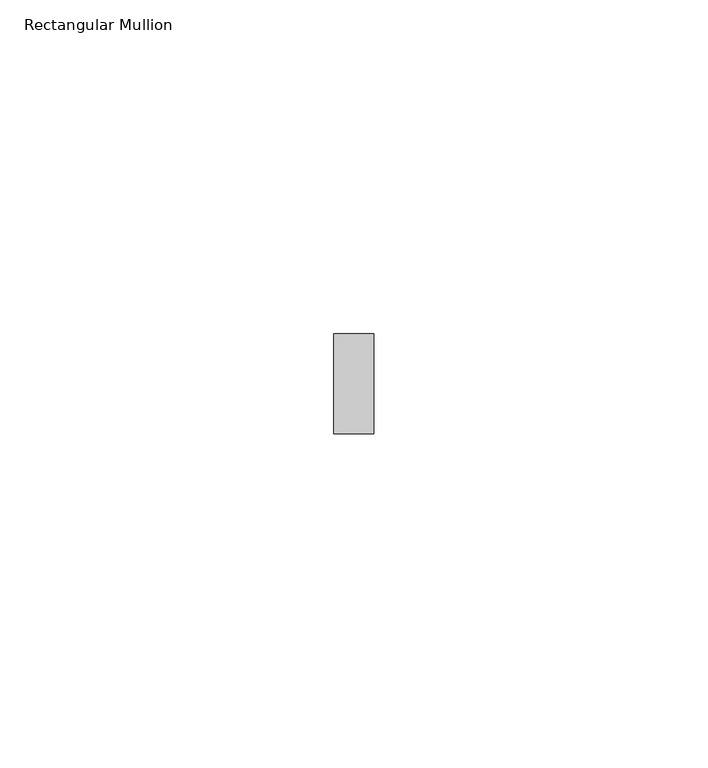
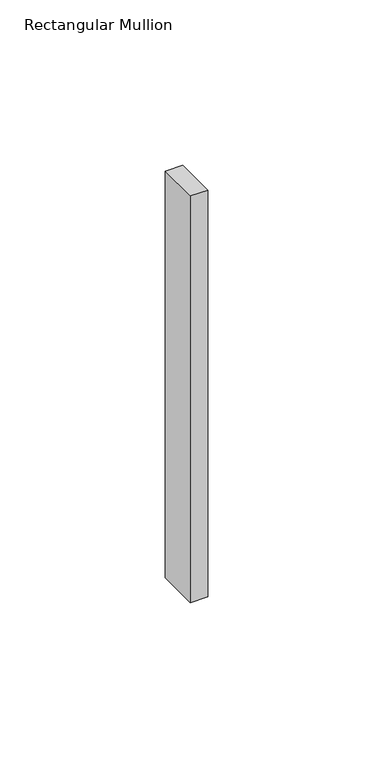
"""IFC4 building model written with IfcOpenShell, lengths in millimetres: member geometry, Rectangular Mullion : ARQ_HERR_15X6mm."""

from ifc_helpers import new_model, si_unit, frame, origin, place, context, project, spatial, polyline, outline, extrude, source, transform, mapped, element, save


def rectangular_mullion_bccfeea3(model_context):
    return source(origin(), model_context, "Body", "SweptSolid", [
        extrude(outline(polyline([(0.0, 7.5), (0.0, -7.5), (-6.0, -7.5), (-6.0, 7.5), (0.0, 7.5)])), frame((0.0, 0.0, -150.0), z_axis=(0.0, 0.0, 1.0), x_axis=(1.0, 0.0, 0.0)), (0.0, 0.0, 1.0), 150.0),
    ])


if __name__ == "__main__":
    model = new_model("IFC4")
    model_context = context("Model", 3, world=origin())
    ifc_project = project(units=[si_unit("LENGTHUNIT", "METRE", prefix="MILLI")], contexts=[model_context])
    site = spatial("IfcSite", under=ifc_project)
    building = spatial("IfcBuilding", under=site)
    placement = place(None, origin())
    rectangular_mullion_shape = rectangular_mullion_bccfeea3(model_context)
    element("IfcMember", 1, ObjectType="Rectangular Mullion : ARQ_HERR_15X6mm", at=placement, inside=building, context=model_context, shape_type="MappedRepresentation", body=[
        mapped(rectangular_mullion_shape, transform((0.0, 0.0, 0.0), x_axis=(1.0, 0.0, 0.0), y_axis=(0.0, 1.0, 0.0), z_axis=(0.0, 0.0, 1.0))),
    ])
    save(model, "model.ifc")
